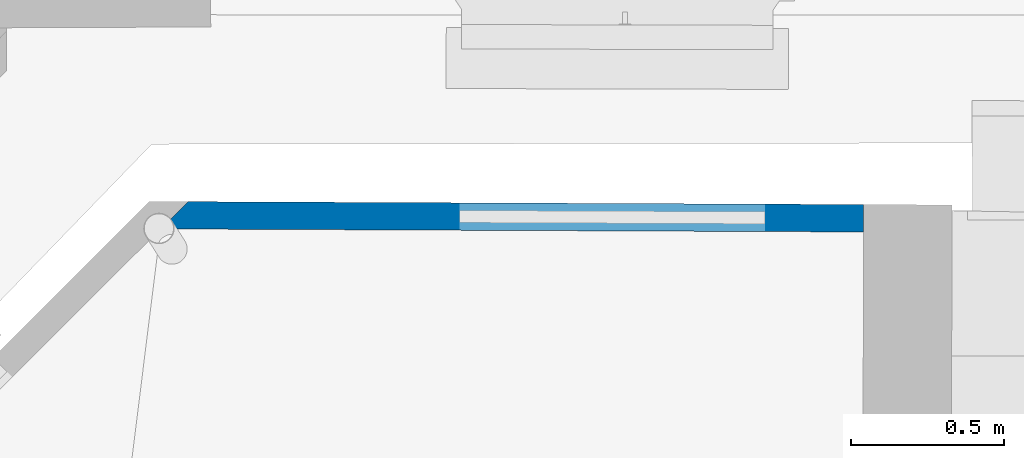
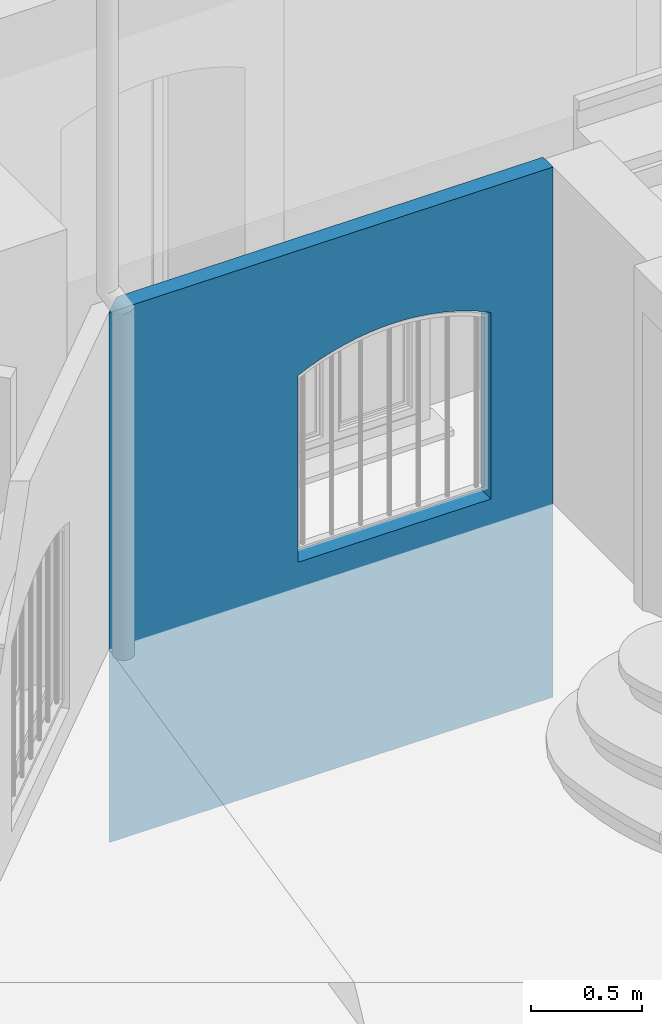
# One storey, part 13 of 133: 1 wall, 1 opening.
"""IFC2X3 building model written with IfcOpenShell, lengths in centimetres."""

from ifc_helpers import new_model, entity, si_unit, converted_unit, point, direction, frame, frame_2d, origin, origin_with_axes, place, context, subcontext, project, spatial, polyline, circle_curve, trimmed, segment, composite_curve, outline, extrude, clip, bounded_halfspace, shape, material, layer, layer_set, layer_usage, type_object, element, save


model = new_model("IFC2X3")

# Units and contexts
model_context = context("Model", 3, precision=0.0001, world=origin(), true_north=direction((0.225632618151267, 0.974212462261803, 0.0)))
body_context = subcontext(model_context, "Body", "Model", "MODEL_VIEW")
footprint_context = subcontext(model_context, "FootPrint", "Model", "MODEL_VIEW")
profile_context = subcontext(model_context, "Profile", "Model", "MODEL_VIEW")
ifc_project = project(units=[si_unit("LENGTHUNIT", "METRE", prefix="CENTI"), si_unit("AREAUNIT", "SQUARE_METRE", prefix="CENTI"), si_unit("VOLUMEUNIT", "CUBIC_METRE", prefix="CENTI"), converted_unit("PLANEANGLEUNIT", "DEGREE", entity("IfcRatioMeasure", 0.0174532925), si_unit("PLANEANGLEUNIT", "RADIAN"), dimensions=[0, 0, 0, 0, 0, 0, 0])], contexts=[model_context])

# Site, building, storey
site_placement = place(None, origin_with_axes())
site = spatial("IfcSite", under=ifc_project, at=site_placement, Name="Default Site", CompositionType="ELEMENT")
building_placement = place(site_placement, origin_with_axes())
building = spatial("IfcBuilding", under=site, at=building_placement, Name="Default Building", CompositionType="ELEMENT")
storey_placement = place(building_placement, frame((0.0, 0.0, -291.400371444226), z_axis=(0.0, 0.0, 1.0), x_axis=(1.0, 0.0, 0.0)))
storey = spatial("IfcBuildingStorey", under=building, at=storey_placement, Name="Rez-de-Jardin", CompositionType="ELEMENT", Elevation=-291.400371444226)

# Wall, opening
ifc_material = material(Name="<aucun>")
ifc_layer = layer(ifc_material, 9.0)
ifc_layer_set = layer_set([ifc_layer], Name="default")
ifc_layer_usage = layer_usage(ifc_layer_set, "AXIS2", "POSITIVE", -4.5)
wall_type = type_object("IfcWallType", Name="default 90", PredefinedType="NOTDEFINED", material=ifc_layer_set)
wall_placement = place(storey_placement, frame((-426.40598346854, -973.81888531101, -1.94511073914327e-11), z_axis=(0.0, 0.0, 1.0), x_axis=(-0.999990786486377, 0.00429266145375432, 0.0)))
wall = element("IfcWallStandardCase", 1, at=wall_placement, inside=storey, type_object=wall_type, material=ifc_layer_usage, Name="Enveloppe 351530", context=body_context, shape_type="Clipping", body=[
    clip(extrude(outline(polyline([(230.354012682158, 4.49999999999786), (-0.0340335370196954, 4.49999999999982), (-0.00591926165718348, -4.50042926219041), (221.419012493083, -4.50000000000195), (230.354012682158, 4.49999999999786)])), frame((0.0, 0.0, 8.88178419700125e-14), z_axis=(0.0, 0.0, 1.0), x_axis=(1.0, 0.0, 0.0)), (0.0, 0.0, 1.0), 291.413221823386), bounded_halfspace(frame((0.0940788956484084, -2.98806680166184, 271.400371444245), z_axis=(0.0, 0.0, -1.0), x_axis=(-0.999999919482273, 0.000401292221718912, 0.0)), True, frame((0.0940788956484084, -2.98806680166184, 271.400371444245), z_axis=(0.0, 0.0, 1.0), x_axis=(1.0, 0.0, 0.0)), polyline([(-0.0999999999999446, -1.51193319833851), (-8.88178419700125e-14, -1.51193319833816), (-8.88178419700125e-14, 0.0), (-0.1047228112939, 4.20244523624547e-05), (-0.0999999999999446, -1.51193319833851)]))),
])
opening_placement = place(wall_placement, frame((32.2201099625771, -2.27373675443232e-13, 120.108487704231), z_axis=(0.0, 0.0, 1.0), x_axis=(-1.0, 8.82800776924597e-15, 0.0)))
cartesian_point_1 = entity("IfcCartesianPoint", [0.0, 0.0, 102.580862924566])
cartesian_point_2 = entity("IfcCartesianPoint", [-100.155950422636, 0.0, 102.580862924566])
cartesian_point_3 = entity("IfcCartesianPoint", [-100.155950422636, -4.49999999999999])
element("IfcOpeningElement", 2, at=opening_placement, cuts=wall, Name="4294966554_12", ObjectType="Opening", shapes=[
    shape(body_context, "Body", "SweptSolid", [extrude(outline(composite_curve([segment(polyline([(0.0, 102.580862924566), (0.0, 2.22044604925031e-14), (100.155950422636, 2.22044604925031e-14), (100.155950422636, 102.580862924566)]), True, "CONTINUOUS"), segment(trimmed(circle_curve(frame_2d((50.077975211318, -0.0799640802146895), x_axis=(1.0, 0.0)), 114.223679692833), [point((100.155950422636, 102.580862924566))], [point((0.0, 102.580862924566))], True, "CARTESIAN"), True, "CONTINUOUS")], self_intersect=False)), frame((0.0, -14.5, 0.0), z_axis=(0.0, 1.0, 0.0), x_axis=(-1.0, 0.0, 0.0)), (0.0, 0.0, 1.0), 29.0)]),
    shape(profile_context, "Profile", "GeometricCurveSet", [entity("IfcGeometricCurveSet", [entity("IfcCompositeCurve", [entity("IfcCompositeCurveSegment", "CONTINUOUS", True, entity("IfcPolyline", [cartesian_point_1, entity("IfcCartesianPoint", [0.0, 0.0, 2.22044604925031e-14]), entity("IfcCartesianPoint", [-100.155950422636, 0.0, 2.22044604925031e-14]), cartesian_point_2])), entity("IfcCompositeCurveSegment", "CONTINUOUS", True, entity("IfcTrimmedCurve", entity("IfcCircle", entity("IfcAxis2Placement3D", entity("IfcCartesianPoint", [-50.077975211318, 0.0, -0.0799640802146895]), entity("IfcDirection", [0.0, 1.0, 0.0]), entity("IfcDirection", [1.0, 0.0, 0.0])), 114.223679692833), [cartesian_point_2], [cartesian_point_1], True, "CARTESIAN"))], False)])]),
    shape(footprint_context, "FootPrint", "GeometricCurveSet", [entity("IfcGeometricCurveSet", [entity("IfcPolyline", [cartesian_point_3, entity("IfcCartesianPoint", [0.0, -4.49999999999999]), entity("IfcCartesianPoint", [-8.88178419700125e-14, 4.49999999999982]), entity("IfcCartesianPoint", [-100.155950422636, 4.49999999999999]), cartesian_point_3])])]),
])

save(model, "model.ifc")
